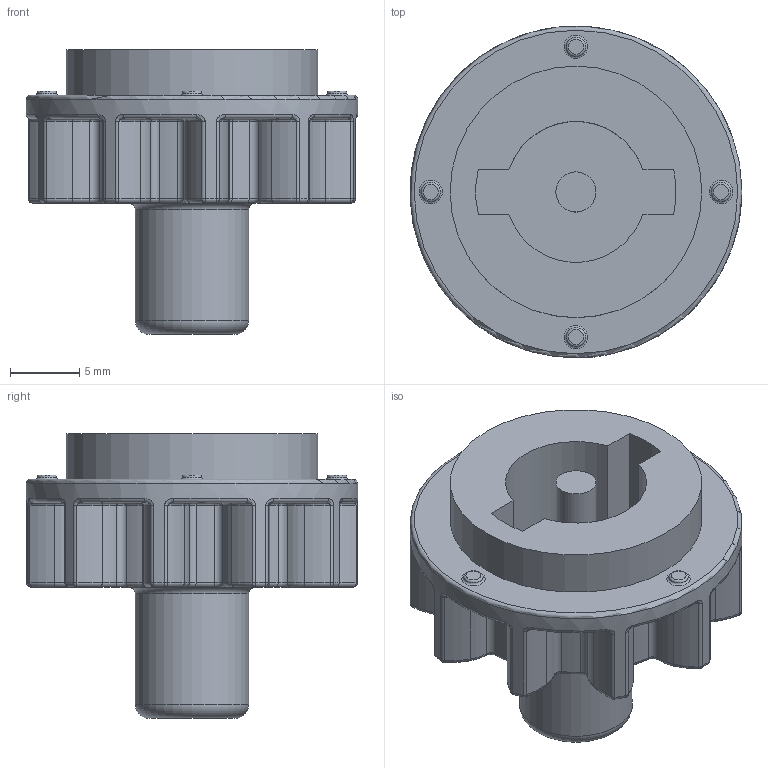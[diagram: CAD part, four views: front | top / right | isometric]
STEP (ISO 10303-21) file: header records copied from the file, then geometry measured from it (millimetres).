
FILE_DESCRIPTION (( 'STEP AP203' ), '1' );
FILE_NAME ('R5NCE219.STEP', '2024-11-25T06:57:31', ( '' ), ( '' ), 'SwSTEP 2.0', 'SolidWorks 2022', '' );
FILE_SCHEMA (( 'CONFIG_CONTROL_DESIGN' ));
Length unit declared in the file: millimetre
Products named in the file (2): RB.2680.00.01.0; R5NCE219
Assembly tree (1 placements, depth 2):
  R5NCE219
    RB.2680.00.01.0
Bounding box: 23.99 x 23.99 x 20.6 mm (x, y, z)
Volume: 3275.2 mm3; surface area: 2572.8 mm2
Topology: 1 solids, 1 shells, 341 faces, 779 edges, 440 vertices
Faces by surface type: torus 174, cylinder 100, plane 26, bspline 20, sphere 20, cone 1
Full cylindrical faces by diameter (mm): 2.9 x1, 3 x1, 4.8 x1, 8.2 x1, 18.2 x1, 24 x1
Entity records: 10042 total; most frequent: CARTESIAN_POINT 2145, DIRECTION 1922, ORIENTED_EDGE 1468, AXIS2_PLACEMENT_3D 903, EDGE_CURVE 734, CIRCLE 578, VERTEX_POINT 426, EDGE_LOOP 372
